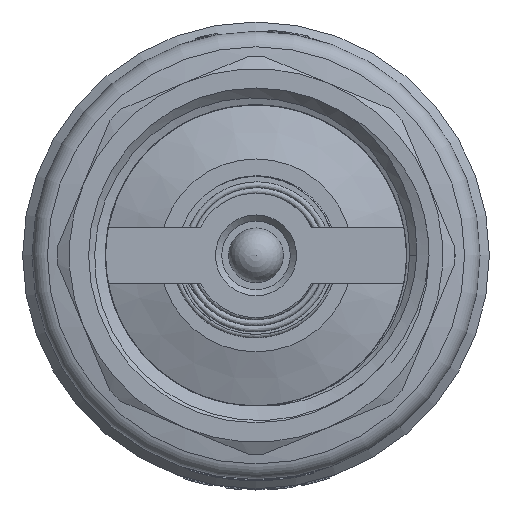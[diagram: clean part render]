
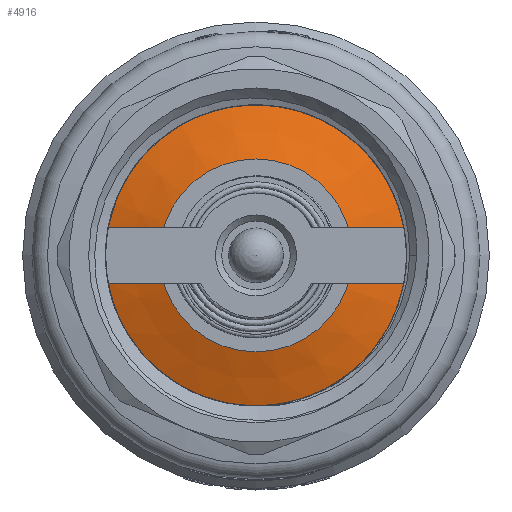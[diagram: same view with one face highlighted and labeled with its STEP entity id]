
A CAD part, left-side view. The second image highlights one B-rep face of the part: STEP entity #4916.
In plain terms, the highlighted conical face has half-angle 71.565 degrees and reference radius 10 mm.
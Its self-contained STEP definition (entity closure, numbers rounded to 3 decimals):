
#284=CONICAL_SURFACE('',#5254,10.,1.249);
#384=CIRCLE('',#5252,7.75);
#385=CIRCLE('',#5253,7.75);
#386=CIRCLE('',#5255,12.25);
#387=CIRCLE('',#5256,12.25);
#620=FACE_OUTER_BOUND('',#910,.T.);
#910=EDGE_LOOP('',(#3424,#3425,#3426,#3427,#3428,#3429));
#1384=LINE('',#10110,#1690);
#1690=VECTOR('',#5896,10.);
#2053=VERTEX_POINT('',#10101);
#2054=VERTEX_POINT('',#10102);
#2055=VERTEX_POINT('',#10106);
#2056=VERTEX_POINT('',#10107);
#2599=EDGE_CURVE('',#2053,#2054,#384,.T.);
#2600=EDGE_CURVE('',#2054,#2053,#385,.T.);
#2601=EDGE_CURVE('',#2055,#2056,#386,.T.);
#2602=EDGE_CURVE('',#2056,#2055,#387,.T.);
#2603=EDGE_CURVE('',#2056,#2054,#1384,.T.);
#3424=ORIENTED_EDGE('',*,*,#2601,.F.);
#3425=ORIENTED_EDGE('',*,*,#2602,.F.);
#3426=ORIENTED_EDGE('',*,*,#2603,.T.);
#3427=ORIENTED_EDGE('',*,*,#2600,.T.);
#3428=ORIENTED_EDGE('',*,*,#2599,.T.);
#3429=ORIENTED_EDGE('',*,*,#2603,.F.);
#4916=ADVANCED_FACE('',(#620),#284,.T.);
#5252=AXIS2_PLACEMENT_3D('',#10103,#5886,#5887);
#5253=AXIS2_PLACEMENT_3D('',#10104,#5888,#5889);
#5254=AXIS2_PLACEMENT_3D('',#10105,#5890,#5891);
#5255=AXIS2_PLACEMENT_3D('',#10108,#5892,#5893);
#5256=AXIS2_PLACEMENT_3D('',#10109,#5894,#5895);
#5886=DIRECTION('center_axis',(1.,0.,0.));
#5887=DIRECTION('ref_axis',(0.,0.,-1.));
#5888=DIRECTION('center_axis',(1.,0.,0.));
#5889=DIRECTION('ref_axis',(0.,0.,-1.));
#5890=DIRECTION('center_axis',(1.,0.,0.));
#5891=DIRECTION('ref_axis',(0.,1.,0.));
#5892=DIRECTION('center_axis',(1.,0.,0.));
#5893=DIRECTION('ref_axis',(0.,0.,-1.));
#5894=DIRECTION('center_axis',(1.,0.,0.));
#5895=DIRECTION('ref_axis',(0.,0.,-1.));
#5896=DIRECTION('',(-0.316,0.949,0.));
#10101=CARTESIAN_POINT('',(-1.75,7.75,0.));
#10102=CARTESIAN_POINT('',(-1.75,-7.75,0.));
#10103=CARTESIAN_POINT('Origin',(-1.75,0.,0.));
#10104=CARTESIAN_POINT('Origin',(-1.75,0.,0.));
#10105=CARTESIAN_POINT('Origin',(-1.,0.,0.));
#10106=CARTESIAN_POINT('',(-0.25,12.25,0.));
#10107=CARTESIAN_POINT('',(-0.25,-12.25,0.));
#10108=CARTESIAN_POINT('Origin',(-0.25,0.,0.));
#10109=CARTESIAN_POINT('Origin',(-0.25,0.,0.));
#10110=CARTESIAN_POINT('',(-1.,-10.,0.));
